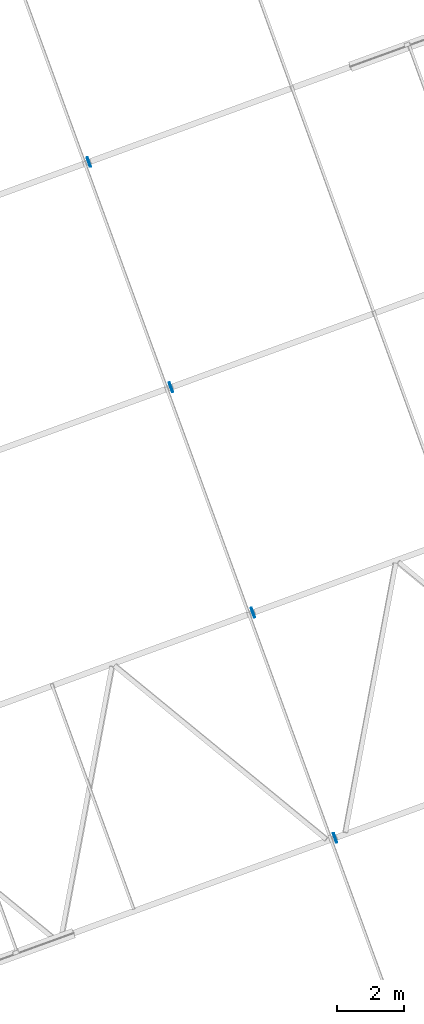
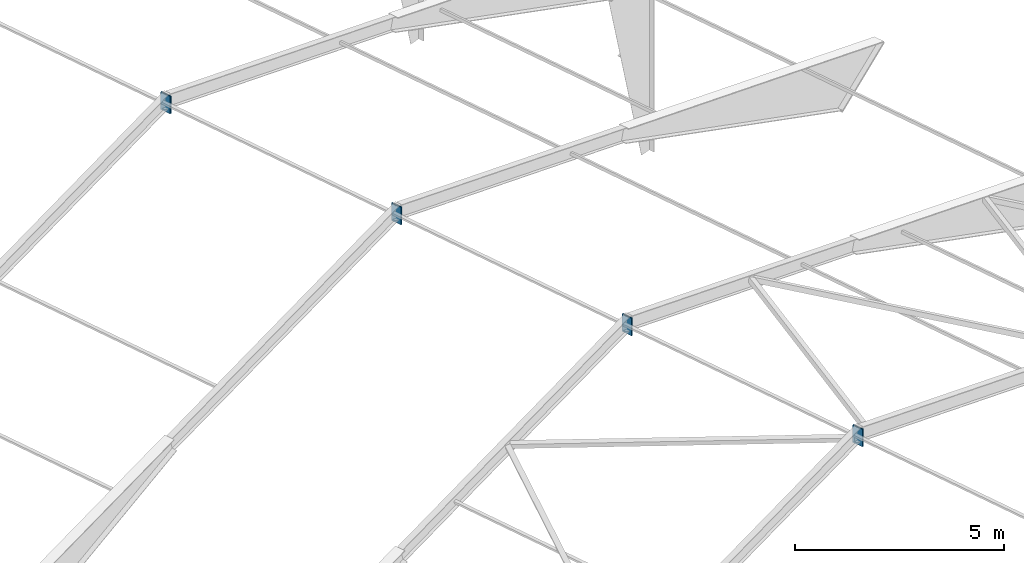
# One storey, part 16 of 17: 8 plates, 8 elements without a shape of their own.
"""IFC4 building model written with IfcOpenShell, lengths in millimetres."""

from ifc_helpers import new_model, si_unit, direction, frame, origin_with_axes, place, context, subcontext, project, spatial, polygons, material, element, aggregate, save


model = new_model("IFC4")

# Units and contexts
model_context = context("Model", 3, precision=0.2, world=frame((203566.813, 116264.779, 0.0), z_axis=(0.0, 0.0, 1.0), x_axis=(1.0, 0.0, 0.0)), true_north=direction((-0.9396138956, -0.3422363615)))
body_context = subcontext(model_context, "Body", "Model", "MODEL_VIEW")
ifc_project = project(units=[si_unit("LENGTHUNIT", "METRE", prefix="MILLI"), si_unit("AREAUNIT", "SQUARE_METRE"), si_unit("VOLUMEUNIT", "CUBIC_METRE"), si_unit("MASSUNIT", "GRAM", prefix="KILO"), si_unit("TIMEUNIT", "SECOND"), si_unit("PLANEANGLEUNIT", "RADIAN"), si_unit("SOLIDANGLEUNIT", "STERADIAN"), si_unit("THERMODYNAMICTEMPERATUREUNIT", "DEGREE_CELSIUS"), si_unit("LUMINOUSINTENSITYUNIT", "LUMEN")], contexts=[model_context])

# Site, building, storey
site_placement = place(None, origin_with_axes())
site = spatial("IfcSite", under=ifc_project, at=site_placement, Name="Nobelprojektet", CompositionType="ELEMENT")
building_placement = place(site_placement, origin_with_axes())
building = spatial("IfcBuilding", under=site, at=building_placement, Name="Hall B", CompositionType="ELEMENT")
storey_placement = place(building_placement, frame((0.0, 0.0, 136000.0), z_axis=(0.0, 0.0, 1.0), x_axis=(1.0, 0.0, 0.0)))
storey = spatial("IfcBuildingStorey", under=building, at=storey_placement, Name="Plan_2", CompositionType="ELEMENT", Elevation=136000.0)

# Assembly, plate
assembly_1_placement = place(storey_placement, frame((164908.48397, 125827.08182, 7973.74542), z_axis=(0.9396136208, 0.3422371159, 0.0), x_axis=(0.0, 0.0, 1.0)))
assembly_1 = element("IfcElementAssembly", 1, at=assembly_1_placement, inside=storey, Name="BEF. STOMME", PredefinedType="NOTDEFINED")
ifc_material = material(Name="S355J2", Category="STEEL")
plate_1_placement = place(assembly_1_placement, frame((509.99451, 0.0, 0.0), z_axis=(-1.0, 0.0, 0.0), x_axis=(0.0, 0.0, 1.0)))
plate_1 = element("IfcPlate", 2, at=plate_1_placement, material=ifc_material, Name="BEF. STOMME", PredefinedType="NOTDEFINED", context=body_context, shape_type="Tessellation", body=[
    polygons([(-10.0, -150.0, 509.99451), (-10.0, 150.0, 509.99451), (-10.0, 150.0, 0.0), (-10.0, -150.0, 0.0), (10.0, 150.0, 509.99451), (10.0, 150.0, 0.0), (10.0, -150.0, 509.99451), (10.0, -150.0, 0.0)], [[[1, 2, 3, 4]], [[2, 5, 6, 3]], [[5, 7, 8, 6]], [[7, 1, 4, 8]], [[6, 8, 4, 3]], [[7, 5, 2, 1]]], closed=True),
])
aggregate(assembly_1, [plate_1])

assembly_2_placement = place(storey_placement, frame((164927.28396, 125833.92916, 7973.74323), z_axis=(0.9396136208, 0.3422371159, 0.0), x_axis=(0.0, 0.0, 1.0)))
assembly_2 = element("IfcElementAssembly", 3, at=assembly_2_placement, inside=storey, Name="BEF. STOMME", PredefinedType="NOTDEFINED")
plate_2_placement = place(assembly_2_placement, frame((509.99451, 0.0, 0.0), z_axis=(-1.0, 0.0, 0.0), x_axis=(0.0, 0.0, 1.0)))
plate_2 = element("IfcPlate", 4, at=plate_2_placement, material=ifc_material, Name="BEF. STOMME", PredefinedType="NOTDEFINED", context=body_context, shape_type="Tessellation", body=[
    polygons([(-10.0, -150.0, 509.99451), (-10.0, 150.0, 509.99451), (-10.0, 150.0, 0.0), (-10.0, -150.0, 0.0), (10.0, 150.0, 509.99451), (10.0, 150.0, 0.0), (10.0, -150.0, 509.99451), (10.0, -150.0, 0.0)], [[[1, 2, 3, 4]], [[2, 5, 6, 3]], [[5, 7, 8, 6]], [[7, 1, 4, 8]], [[6, 8, 4, 3]], [[7, 5, 2, 1]]], closed=True),
])
aggregate(assembly_2, [plate_2])

assembly_3_placement = place(storey_placement, frame((162444.3766, 132592.29939, 7973.74542), z_axis=(0.9396136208, 0.3422371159, 0.0), x_axis=(0.0, 0.0, 1.0)))
assembly_3 = element("IfcElementAssembly", 5, at=assembly_3_placement, inside=storey, Name="BEF. STOMME", PredefinedType="NOTDEFINED")
plate_3_placement = place(assembly_3_placement, frame((509.99451, 0.0, 0.0), z_axis=(-1.0, 0.0, 0.0), x_axis=(0.0, 0.0, 1.0)))
plate_3 = element("IfcPlate", 6, at=plate_3_placement, material=ifc_material, Name="BEF. STOMME", PredefinedType="NOTDEFINED", context=body_context, shape_type="Tessellation", body=[
    polygons([(-10.0, -150.0, 509.99451), (-10.0, 150.0, 509.99451), (-10.0, 150.0, 0.0), (-10.0, -150.0, 0.0), (10.0, 150.0, 509.99451), (10.0, 150.0, 0.0), (10.0, -150.0, 509.99451), (10.0, -150.0, 0.0)], [[[1, 2, 3, 4]], [[2, 5, 6, 3]], [[5, 7, 8, 6]], [[7, 1, 4, 8]], [[6, 8, 4, 3]], [[7, 5, 2, 1]]], closed=True),
])
aggregate(assembly_3, [plate_3])

assembly_4_placement = place(storey_placement, frame((162463.17667, 132599.14748, 7973.74323), z_axis=(0.9396136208, 0.3422371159, 0.0), x_axis=(0.0, 0.0, 1.0)))
assembly_4 = element("IfcElementAssembly", 7, at=assembly_4_placement, inside=storey, Name="BEF. STOMME", PredefinedType="NOTDEFINED")
plate_4_placement = place(assembly_4_placement, frame((509.99451, 0.0, 0.0), z_axis=(-1.0, 0.0, 0.0), x_axis=(0.0, 0.0, 1.0)))
plate_4 = element("IfcPlate", 8, at=plate_4_placement, material=ifc_material, Name="BEF. STOMME", PredefinedType="NOTDEFINED", context=body_context, shape_type="Tessellation", body=[
    polygons([(-10.0, -150.0, 509.99451), (-10.0, 150.0, 509.99451), (-10.0, 150.0, 0.0), (-10.0, -150.0, 0.0), (10.0, 150.0, 509.99451), (10.0, 150.0, 0.0), (10.0, -150.0, 509.99451), (10.0, -150.0, 0.0)], [[[1, 2, 3, 4]], [[2, 5, 6, 3]], [[5, 7, 8, 6]], [[7, 1, 4, 8]], [[6, 8, 4, 3]], [[7, 5, 2, 1]]], closed=True),
])
aggregate(assembly_4, [plate_4])

assembly_5_placement = place(storey_placement, frame((157516.16171, 146122.73598, 7973.74542), z_axis=(0.9396136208, 0.3422371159, 0.0), x_axis=(0.0, 0.0, 1.0)))
assembly_5 = element("IfcElementAssembly", 9, at=assembly_5_placement, inside=storey, Name="BEF. STOMME", PredefinedType="NOTDEFINED")
plate_5_placement = place(assembly_5_placement, frame((509.99451, 0.0, 0.0), z_axis=(-1.0, 0.0, 0.0), x_axis=(0.0, 0.0, 1.0)))
plate_5 = element("IfcPlate", 10, at=plate_5_placement, material=ifc_material, Name="BEF. STOMME", PredefinedType="NOTDEFINED", context=body_context, shape_type="Tessellation", body=[
    polygons([(-10.0, -150.0, 509.99451), (-10.0, 150.0, 509.99451), (-10.0, 150.0, 0.0), (-10.0, -150.0, 0.0), (10.0, 150.0, 509.99451), (10.0, 150.0, 0.0), (10.0, -150.0, 509.99451), (10.0, -150.0, 0.0)], [[[1, 2, 3, 4]], [[2, 5, 6, 3]], [[5, 7, 8, 6]], [[7, 1, 4, 8]], [[6, 8, 4, 3]], [[7, 5, 2, 1]]], closed=True),
])
aggregate(assembly_5, [plate_5])

assembly_6_placement = place(storey_placement, frame((159999.06939, 139364.36581, 7973.74323), z_axis=(0.9396136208, 0.3422371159, 0.0), x_axis=(0.0, 0.0, 1.0)))
assembly_6 = element("IfcElementAssembly", 11, at=assembly_6_placement, inside=storey, Name="BEF. STOMME", PredefinedType="NOTDEFINED")
plate_6_placement = place(assembly_6_placement, frame((509.99451, 0.0, 0.0), z_axis=(-1.0, 0.0, 0.0), x_axis=(0.0, 0.0, 1.0)))
plate_6 = element("IfcPlate", 12, at=plate_6_placement, material=ifc_material, Name="BEF. STOMME", PredefinedType="NOTDEFINED", context=body_context, shape_type="Tessellation", body=[
    polygons([(-10.0, -150.0, 509.99451), (-10.0, 150.0, 509.99451), (-10.0, 150.0, 0.0), (-10.0, -150.0, 0.0), (10.0, 150.0, 509.99451), (10.0, 150.0, 0.0), (10.0, -150.0, 509.99451), (10.0, -150.0, 0.0)], [[[1, 2, 3, 4]], [[2, 5, 6, 3]], [[5, 7, 8, 6]], [[7, 1, 4, 8]], [[6, 8, 4, 3]], [[7, 5, 2, 1]]], closed=True),
])
aggregate(assembly_6, [plate_6])

assembly_7_placement = place(storey_placement, frame((159981.20531, 139357.85829, 7973.74542), z_axis=(0.9396136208, 0.3422371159, 0.0), x_axis=(0.0, 0.0, 1.0)))
assembly_7 = element("IfcElementAssembly", 13, at=assembly_7_placement, inside=storey, Name="BEF. STOMME", PredefinedType="NOTDEFINED")
plate_7_placement = place(assembly_7_placement, frame((509.99451, 0.0, 0.0), z_axis=(-1.0, 0.0, 0.0), x_axis=(0.0, 0.0, 1.0)))
plate_7 = element("IfcPlate", 14, at=plate_7_placement, material=ifc_material, Name="BEF. STOMME", PredefinedType="NOTDEFINED", context=body_context, shape_type="Tessellation", body=[
    polygons([(-10.0, -150.0, 509.99451), (-10.0, 150.0, 509.99451), (-10.0, 150.0, 0.0), (-10.0, -150.0, 0.0), (10.0, 150.0, 509.99451), (10.0, 150.0, 0.0), (10.0, -150.0, 509.99451), (10.0, -150.0, 0.0)], [[[1, 2, 3, 4]], [[2, 5, 6, 3]], [[5, 7, 8, 6]], [[7, 1, 4, 8]], [[6, 8, 4, 3]], [[7, 5, 2, 1]]], closed=True),
])
aggregate(assembly_7, [plate_7])

assembly_8_placement = place(storey_placement, frame((157534.96216, 146129.58388, 7973.74323), z_axis=(0.9396136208, 0.3422371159, 0.0), x_axis=(0.0, 0.0, 1.0)))
assembly_8 = element("IfcElementAssembly", 15, at=assembly_8_placement, inside=storey, Name="BEF. STOMME", PredefinedType="NOTDEFINED")
plate_8_placement = place(assembly_8_placement, frame((509.99451, 0.0, 0.0), z_axis=(-1.0, 0.0, 0.0), x_axis=(0.0, 0.0, 1.0)))
plate_8 = element("IfcPlate", 16, at=plate_8_placement, material=ifc_material, Name="BEF. STOMME", PredefinedType="NOTDEFINED", context=body_context, shape_type="Tessellation", body=[
    polygons([(-10.0, -150.0, 509.99451), (-10.0, 150.0, 509.99451), (-10.0, 150.0, 0.0), (-10.0, -150.0, 0.0), (10.0, 150.0, 509.99451), (10.0, 150.0, 0.0), (10.0, -150.0, 509.99451), (10.0, -150.0, 0.0)], [[[1, 2, 3, 4]], [[2, 5, 6, 3]], [[5, 7, 8, 6]], [[7, 1, 4, 8]], [[6, 8, 4, 3]], [[7, 5, 2, 1]]], closed=True),
])
aggregate(assembly_8, [plate_8])

save(model, "model.ifc")
